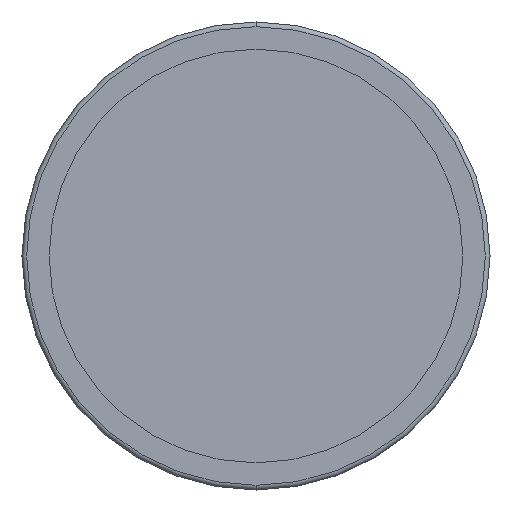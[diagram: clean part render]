
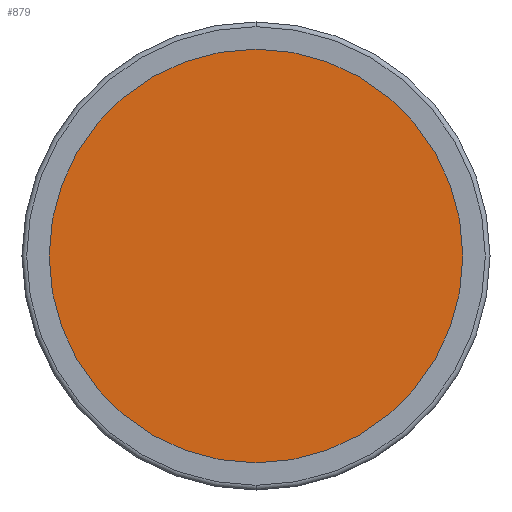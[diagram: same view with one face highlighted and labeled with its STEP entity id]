
A CAD part, front view. The second image highlights one B-rep face of the part: STEP entity #879.
In plain terms, the highlighted planar face has unit normal (0, -1, 0).
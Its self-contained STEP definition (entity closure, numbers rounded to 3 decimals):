
#88 = DIRECTION ( 'NONE',  ( 0., 0., -1. ) ) ;
#415 = DIRECTION ( 'NONE',  ( 0., 1., 0. ) ) ;
#549 = CARTESIAN_POINT ( 'NONE',  ( 0., -3., -43.75 ) ) ;
#599 = CARTESIAN_POINT ( 'NONE',  ( -43.75, -3., 0. ) ) ;
#742 = DIRECTION ( 'NONE',  ( 0., 1., 0. ) ) ;
#778 = VERTEX_POINT ( 'NONE', #1056 ) ;
#806 = VERTEX_POINT ( 'NONE', #549 ) ;
#879 = ADVANCED_FACE ( 'NONE', ( #3093 ), #1079, .T. ) ;
#1056 = CARTESIAN_POINT ( 'NONE',  ( 0., -3., 43.75 ) ) ;
#1079 = PLANE ( 'NONE',  #1123 ) ;
#1123 = AXIS2_PLACEMENT_3D ( 'NONE', #599, #2286, #88 ) ;
#1238 = CIRCLE ( 'NONE', #1288, 43.75 ) ;
#1288 = AXIS2_PLACEMENT_3D ( 'NONE', #2437, #742, #1722 ) ;
#1654 = CARTESIAN_POINT ( 'NONE',  ( 0., -3., 0. ) ) ;
#1722 = DIRECTION ( 'NONE',  ( 0., 0., 1. ) ) ;
#1773 = EDGE_CURVE ( 'NONE', #806, #778, #1994, .T. ) ;
#1994 = CIRCLE ( 'NONE', #2552, 43.75 ) ;
#2183 = EDGE_LOOP ( 'NONE', ( #2458, #3146 ) ) ;
#2286 = DIRECTION ( 'NONE',  ( 0., -1., 0. ) ) ;
#2437 = CARTESIAN_POINT ( 'NONE',  ( 0., -3., 0. ) ) ;
#2458 = ORIENTED_EDGE ( 'NONE', *, *, #3049, .F. ) ;
#2552 = AXIS2_PLACEMENT_3D ( 'NONE', #1654, #415, #2886 ) ;
#2886 = DIRECTION ( 'NONE',  ( 0., 0., 1. ) ) ;
#3049 = EDGE_CURVE ( 'NONE', #778, #806, #1238, .T. ) ;
#3093 = FACE_OUTER_BOUND ( 'NONE', #2183, .T. ) ;
#3146 = ORIENTED_EDGE ( 'NONE', *, *, #1773, .F. ) ;
